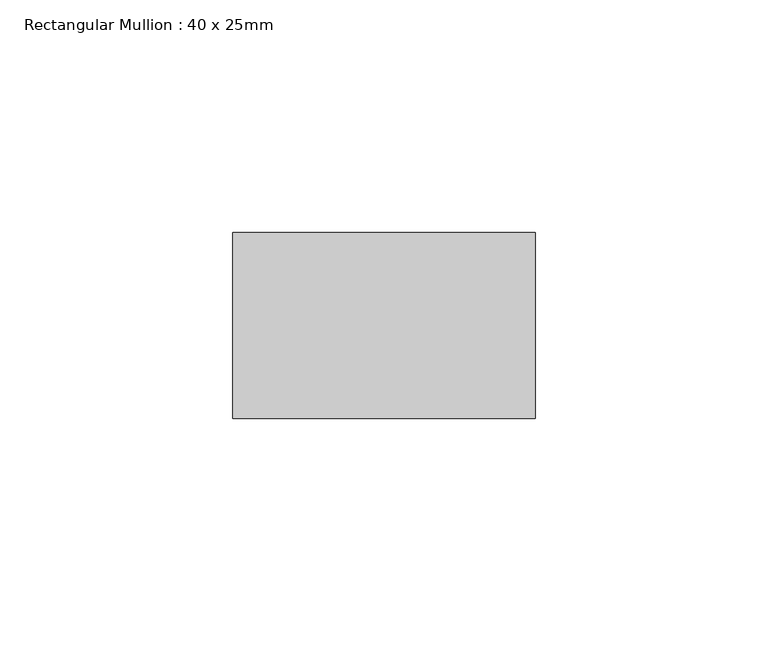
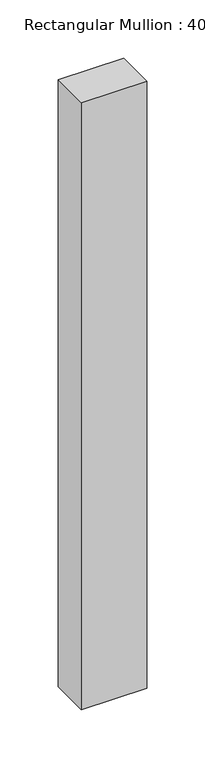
"""IFC4 building model written with IfcOpenShell, lengths in millimetres: member geometry, Rectangular Mullion : 40 x 25mm."""

import ifcopenshell
import ifcopenshell.guid

model = None  # the IFC model being written
_history = None  # IfcOwnerHistory: only IFC2X3 demands one
_inside = {}  # id of a spatial element -> (the spatial element, [elements in it])
_under = {}  # id of a project, library or spatial element -> (it, [spatial elements below it])
_declared = {}  # id of a project -> (the project, [libraries it declares])
_typed = {}  # id of a type object -> (the type object, [elements of that type])
_made_of = {}  # id of a material, layer set ... -> (it, [elements and type objects made of it])


def new_model(schema):
    """Start an empty IFC model of exactly this schema.

    Asked for "IFC4X3", IfcOpenShell would pick the latest addendum, in which some entities
    have other attributes; the version numbers below select the first issue.
    IFC2X3 requires an IfcOwnerHistory on every rooted entity: one is made here for all.
    """
    global model, _history
    if schema == "IFC4X3":
        model = ifcopenshell.file(schema_version=(4, 3, 0, 0))
    else:
        model = ifcopenshell.file(schema=schema)
    _inside.clear()
    _under.clear()
    _declared.clear()
    _typed.clear()
    _made_of.clear()
    _history = None
    if model.schema == "IFC2X3":
        org = make("IfcOrganization", Name="unknown")
        user = make(
            "IfcPersonAndOrganization",
            ThePerson=make("IfcPerson", FamilyName="unknown"),
            TheOrganization=org,
        )
        app = make(
            "IfcApplication",
            ApplicationDeveloper=org,
            Version="unknown",
            ApplicationFullName="unknown",
            ApplicationIdentifier="unknown",
        )
        _history = make(
            "IfcOwnerHistory",
            OwningUser=user,
            OwningApplication=app,
            ChangeAction="ADDED",
            CreationDate=0,
        )
    return model


def make(cls, **values):
    """One entity of the class cls with the attributes given. An attribute that is None is left unset."""
    return model.create_entity(
        cls, **{name: value for name, value in values.items() if value is not None}
    )


def rooted(cls, **values):
    """An entity with a GlobalId (a new one), such as an element, a storey or a relation."""
    return make(cls, GlobalId=ifcopenshell.guid.new(), OwnerHistory=_history, **values)


def si_unit(unit_type, name, prefix=None):
    """IfcSIUnit, for example si_unit("LENGTHUNIT", "METRE", prefix="MILLI")."""
    return make("IfcSIUnit", UnitType=unit_type, Prefix=prefix, Name=name)


def assignment(units):
    """IfcUnitAssignment: the units of a project."""
    return None if units is None else make("IfcUnitAssignment", Units=units)


def point(xyz):
    """IfcCartesianPoint."""
    return None if xyz is None else make("IfcCartesianPoint", Coordinates=xyz)


def direction(xyz):
    """IfcDirection."""
    return None if xyz is None else make("IfcDirection", DirectionRatios=xyz)


def frame(location, z_axis=None, x_axis=None):
    """IfcAxis2Placement3D, a coordinate frame: its origin and axes. An axis left out is left unset."""
    return make(
        "IfcAxis2Placement3D",
        Location=point(location),
        Axis=direction(z_axis),
        RefDirection=direction(x_axis),
    )


def origin():
    """The frame at (0, 0, 0) with its axes left unset."""
    return frame((0.0, 0.0, 0.0))


def place(relative_to, where):
    """IfcLocalPlacement: puts the frame where relative to a parent placement (None: the world)."""
    return make(
        "IfcLocalPlacement", PlacementRelTo=relative_to, RelativePlacement=where
    )


def context(
    kind, dimensions, precision=None, world=None, true_north=None, identifier=None
):
    """IfcGeometricRepresentationContext, for example the 3D "Model" context."""
    return make(
        "IfcGeometricRepresentationContext",
        ContextIdentifier=identifier,
        ContextType=kind,
        CoordinateSpaceDimension=dimensions,
        Precision=precision,
        WorldCoordinateSystem=world,
        TrueNorth=true_north,
    )


def project(units=None, contexts=None):
    """IfcProject with its units and contexts."""
    return rooted(
        "IfcProject",
        Name="project",
        RepresentationContexts=contexts,
        UnitsInContext=assignment(units),
    )


def spatial(cls, under=None, at=None, **own):
    """A site, building, storey or space (cls), placed at a placement, below another one or the project."""
    s = rooted(cls, ObjectPlacement=at, **own)
    if under is not None:
        _under.setdefault(under.id(), (under, []))[1].append(s)
    return s


def polyline(points):
    """IfcPolyline through the points."""
    return make("IfcPolyline", Points=[point(p) for p in points])


def outline(outer, holes=None, kind="AREA"):
    """IfcArbitraryClosedProfileDef: a profile drawn as a closed curve; with holes, ...WithVoids."""
    if holes is None:
        return make("IfcArbitraryClosedProfileDef", ProfileType=kind, OuterCurve=outer)
    return make(
        "IfcArbitraryProfileDefWithVoids",
        ProfileType=kind,
        OuterCurve=outer,
        InnerCurves=holes,
    )


def extrude(swept, where, along, depth):
    """IfcExtrudedAreaSolid: the profile swept, set in the frame where, extruded along a direction by depth."""
    return make(
        "IfcExtrudedAreaSolid",
        SweptArea=swept,
        Position=where,
        ExtrudedDirection=direction(along),
        Depth=depth,
    )


def shape(context_of_items, identifier, shape_type, items):
    """IfcShapeRepresentation: the items that make up one representation, for example the "Body"."""
    return make(
        "IfcShapeRepresentation",
        ContextOfItems=context_of_items,
        RepresentationIdentifier=identifier,
        RepresentationType=shape_type,
        Items=items,
    )


def source(mapping_origin, context_of_items, identifier, shape_type, items):
    """IfcRepresentationMap: a shape defined once, which mapped items show again and again."""
    return make(
        "IfcRepresentationMap",
        MappingOrigin=mapping_origin,
        MappedRepresentation=shape(context_of_items, identifier, shape_type, items),
    )


def transform(
    local_origin,
    x_axis=None,
    y_axis=None,
    z_axis=None,
    scale=None,
    scale2=None,
    scale3=None,
    uniform=True,
):
    """IfcCartesianTransformationOperator3D, or its non-uniform kind. x_axis, y_axis, z_axis: its Axis1, 2, 3."""
    if uniform:
        return make(
            "IfcCartesianTransformationOperator3D",
            Axis1=direction(x_axis),
            Axis2=direction(y_axis),
            LocalOrigin=point(local_origin),
            Scale=scale,
            Axis3=direction(z_axis),
        )
    return make(
        "IfcCartesianTransformationOperator3DnonUniform",
        Axis1=direction(x_axis),
        Axis2=direction(y_axis),
        LocalOrigin=point(local_origin),
        Scale=scale,
        Axis3=direction(z_axis),
        Scale2=scale2,
        Scale3=scale3,
    )


def mapped(mapping_source, mapping_target):
    """IfcMappedItem: shows the shape of a source again, moved by a transform."""
    return make(
        "IfcMappedItem", MappingSource=mapping_source, MappingTarget=mapping_target
    )


def made_of(thing, what):
    """Note that an element or type object is made of a material, layer set ...; save() writes the relation."""
    if what is not None:
        _made_of.setdefault(what.id(), (what, []))[1].append(thing)
    return thing


def element(
    cls,
    number,
    at=None,
    inside=None,
    cuts=None,
    type_object=None,
    material=None,
    context=None,
    identifier="Body",
    shape_type=None,
    held_by="IfcProductDefinitionShape",
    body=None,
    shapes=None,
    **own,
):
    """One element of the class cls, such as IfcWall. Its Tag is "e" and its number.

    at: its placement. inside: the storey or other place that contains it. cuts: it is an
    opening in that element (IfcRelVoidsElement). A single representation is given by context,
    identifier, shape_type and body (its items); several are given by shapes. held_by: the class
    of the entity that holds the representations. save() writes the other relations.
    """
    e = rooted(cls, Tag="e%d" % number, ObjectPlacement=at, **own)
    if body is not None:
        shapes = [shape(context, identifier, shape_type, body)]
    if shapes is not None:
        e.Representation = make(held_by, Representations=shapes)
    if inside is not None:
        _inside.setdefault(inside.id(), (inside, []))[1].append(e)
    if cuts is not None:
        rooted(
            "IfcRelVoidsElement", RelatingBuildingElement=cuts, RelatedOpeningElement=e
        )
    if type_object is not None:
        _typed.setdefault(type_object.id(), (type_object, []))[1].append(e)
    return made_of(e, material)


def aggregate(whole, parts):
    """IfcRelAggregates: a whole, such as a stair, and the parts it consists of."""
    return rooted("IfcRelAggregates", RelatingObject=whole, RelatedObjects=parts)


def save(model, path):
    """Write the relations noted so far, then the file.

    IfcRelAggregates (storeys below a building ...), IfcRelContainedInSpatialStructure (elements
    in a storey), IfcRelDefinesByType, IfcRelAssociatesMaterial and IfcRelDeclares: one each for
    every whole, place, type object, material and project.
    """
    for whole, parts in _under.values():
        aggregate(whole, parts)
    for where, things in _inside.values():
        rooted(
            "IfcRelContainedInSpatialStructure",
            RelatedElements=things,
            RelatingStructure=where,
        )
    for kind, things in _typed.values():
        rooted("IfcRelDefinesByType", RelatedObjects=things, RelatingType=kind)
    for what, things in _made_of.values():
        rooted("IfcRelAssociatesMaterial", RelatedObjects=things, RelatingMaterial=what)
    for by, libraries in _declared.values():
        rooted("IfcRelDeclares", RelatingContext=by, RelatedDefinitions=libraries)
    model.write(path)


def rectangular_mullion_40_x_25mm_31f31cc6(model_context):
    return source(origin(), model_context, "Body", "SweptSolid", [
        extrude(outline(polyline([(0.0, -20.0), (0.0, -60.0), (-65.0, -60.0), (-65.0, -20.0), (0.0, -20.0)])), frame((0.0, 0.0, -637.3150281), z_axis=(0.0, 0.0, 1.0), x_axis=(1.0, 0.0, 0.0)), (0.0, 0.0, 1.0), 637.3150281),
    ])


if __name__ == "__main__":
    model = new_model("IFC4")
    model_context = context("Model", 3, world=origin())
    ifc_project = project(units=[si_unit("LENGTHUNIT", "METRE", prefix="MILLI")], contexts=[model_context])
    site = spatial("IfcSite", under=ifc_project)
    building = spatial("IfcBuilding", under=site)
    placement = place(None, origin())
    rectangular_mullion_40_x_25mm_shape = rectangular_mullion_40_x_25mm_31f31cc6(model_context)
    element("IfcMember", 1, ObjectType="Rectangular Mullion : 40 x 25mm", at=placement, inside=building, context=model_context, shape_type="MappedRepresentation", body=[
        mapped(rectangular_mullion_40_x_25mm_shape, transform((0.0, 0.0, 0.0), x_axis=(1.0, 0.0, 0.0), y_axis=(0.0, 1.0, 0.0), z_axis=(0.0, 0.0, 1.0))),
    ])
    save(model, "model.ifc")
